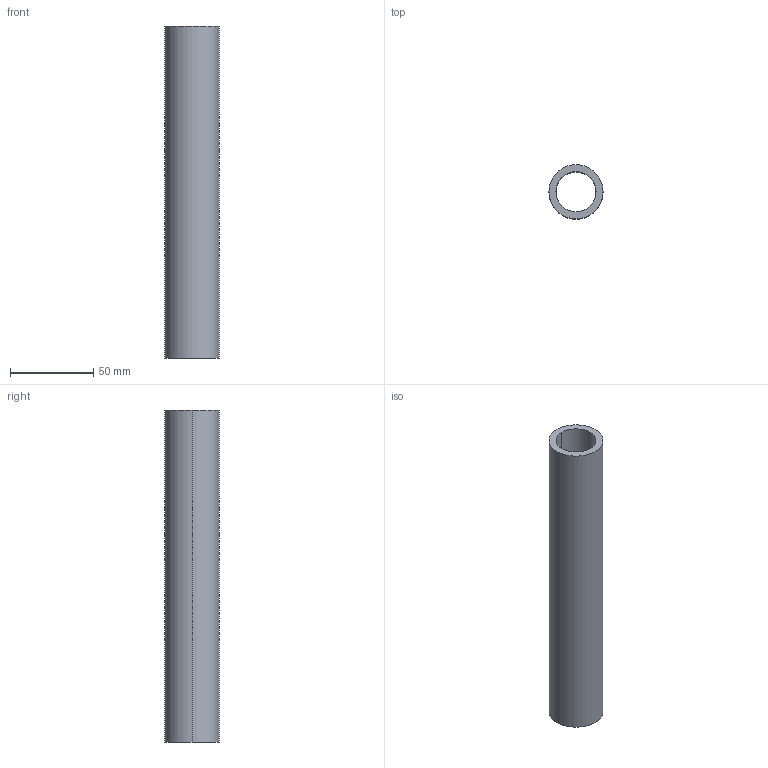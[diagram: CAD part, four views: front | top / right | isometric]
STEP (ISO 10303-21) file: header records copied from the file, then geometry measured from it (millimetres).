
FILE_DESCRIPTION (( 'STEP AP203' ), '1' );
FILE_NAME ('19-0408-65_outokumpu.step', '2015-08-11T09:40:56', ( '' ), ( '' ), 'SwSTEP 2.0', 'SolidWorks 2008', '' );
FILE_SCHEMA (( 'CONFIG_CONTROL_DESIGN' ));
Length unit declared in the file: millimetre
Products named in the file (1): 19-0408-65_outokumpu
Bounding box: 32.6 x 32.6 x 200 mm (x, y, z)
Volume: 74040.5 mm3; surface area: 36443.5 mm2
Topology: 1 solids, 1 shells, 12 faces, 26 edges, 16 vertices
Faces by surface type: cylinder 6, cone 4, plane 2
Entity records: 415 total; most frequent: DIRECTION 68, CARTESIAN_POINT 55, ORIENTED_EDGE 52, AXIS2_PLACEMENT_3D 29, EDGE_CURVE 26, CIRCLE 16, VERTEX_POINT 16, EDGE_LOOP 14
